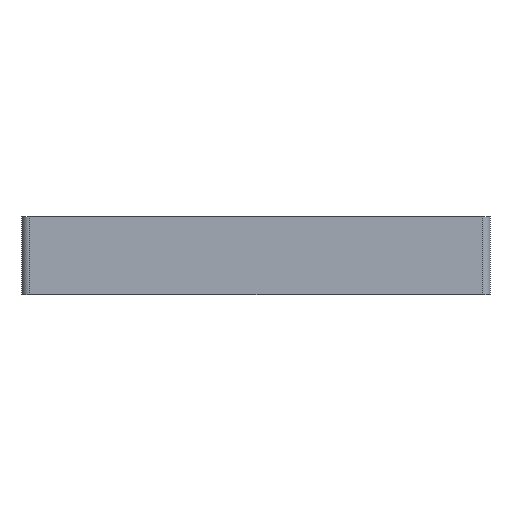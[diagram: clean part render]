
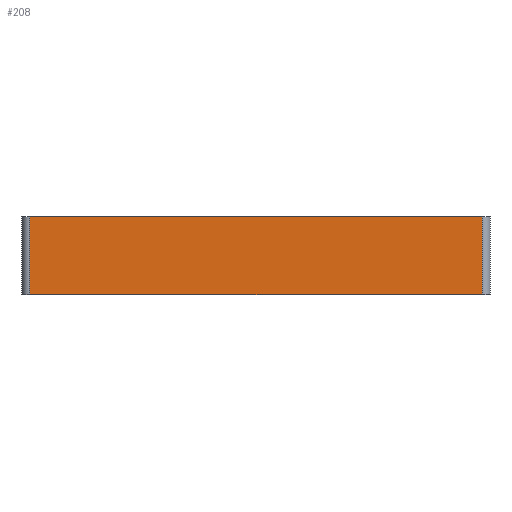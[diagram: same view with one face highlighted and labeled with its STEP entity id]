
A CAD part, left-side view. The second image highlights one B-rep face of the part: STEP entity #208.
In plain terms, the highlighted planar face has unit normal (-1, 0, 0).
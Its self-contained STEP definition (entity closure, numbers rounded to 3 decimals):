
#172=AXIS2_PLACEMENT_3D('Plane Axis2P3D',#169,#170,#171) ;
#169=CARTESIAN_POINT('Axis2P3D Location',(-16.,24.5,0.)) ;
#174=CARTESIAN_POINT('Line Origine',(-16.,-5.5,0.)) ;
#178=CARTESIAN_POINT('Vertex',(-16.,23.5,0.)) ;
#180=CARTESIAN_POINT('Vertex',(-16.,-34.5,0.)) ;
#183=CARTESIAN_POINT('Line Origine',(-16.,-34.5,5.)) ;
#187=CARTESIAN_POINT('Vertex',(-16.,-34.5,10.)) ;
#190=CARTESIAN_POINT('Line Origine',(-16.,-5.5,10.)) ;
#194=CARTESIAN_POINT('Vertex',(-16.,23.5,10.)) ;
#197=CARTESIAN_POINT('Line Origine',(-16.,23.5,5.)) ;
#170=DIRECTION('Axis2P3D Direction',(-1.,0.,0.)) ;
#171=DIRECTION('Axis2P3D XDirection',(0.,-1.,0.)) ;
#175=DIRECTION('Vector Direction',(0.,-1.,0.)) ;
#184=DIRECTION('Vector Direction',(0.,0.,1.)) ;
#191=DIRECTION('Vector Direction',(0.,-1.,0.)) ;
#198=DIRECTION('Vector Direction',(0.,0.,1.)) ;
#176=VECTOR('Line Direction',#175,1.) ;
#185=VECTOR('Line Direction',#184,1.) ;
#192=VECTOR('Line Direction',#191,1.) ;
#199=VECTOR('Line Direction',#198,1.) ;
#203=ORIENTED_EDGE('',*,*,#182,.T.) ;
#204=ORIENTED_EDGE('',*,*,#189,.T.) ;
#205=ORIENTED_EDGE('',*,*,#196,.F.) ;
#206=ORIENTED_EDGE('',*,*,#201,.F.) ;
#208=ADVANCED_FACE('\X2\96F64EF651E04F554F53\X0\',(#207),#173,.T.) ;
#182=EDGE_CURVE('',#179,#181,#177,.T.) ;
#189=EDGE_CURVE('',#181,#188,#186,.T.) ;
#196=EDGE_CURVE('',#195,#188,#193,.T.) ;
#201=EDGE_CURVE('',#179,#195,#200,.T.) ;
#202=EDGE_LOOP('',(#203,#204,#205,#206)) ;
#207=FACE_OUTER_BOUND('',#202,.T.) ;
#177=LINE('Line',#174,#176) ;
#186=LINE('Line',#183,#185) ;
#193=LINE('Line',#190,#192) ;
#200=LINE('Line',#197,#199) ;
#173=PLANE('',#172) ;
#179=VERTEX_POINT('',#178) ;
#181=VERTEX_POINT('',#180) ;
#188=VERTEX_POINT('',#187) ;
#195=VERTEX_POINT('',#194) ;
